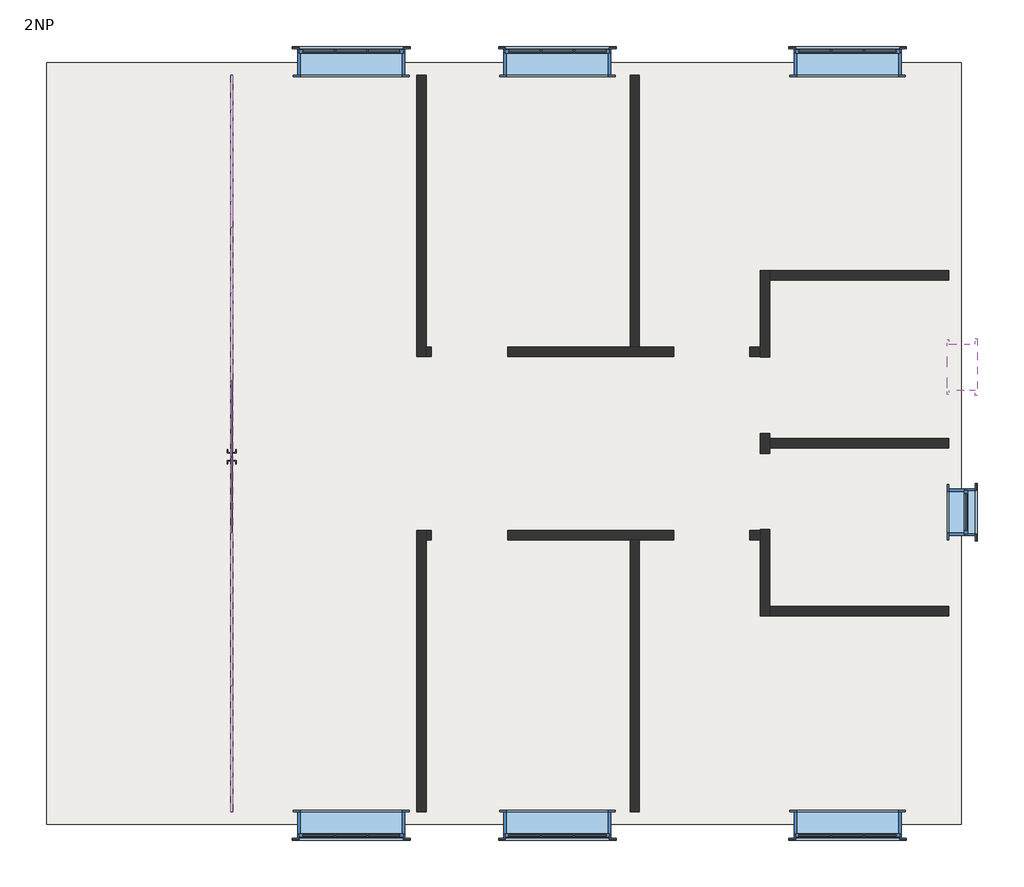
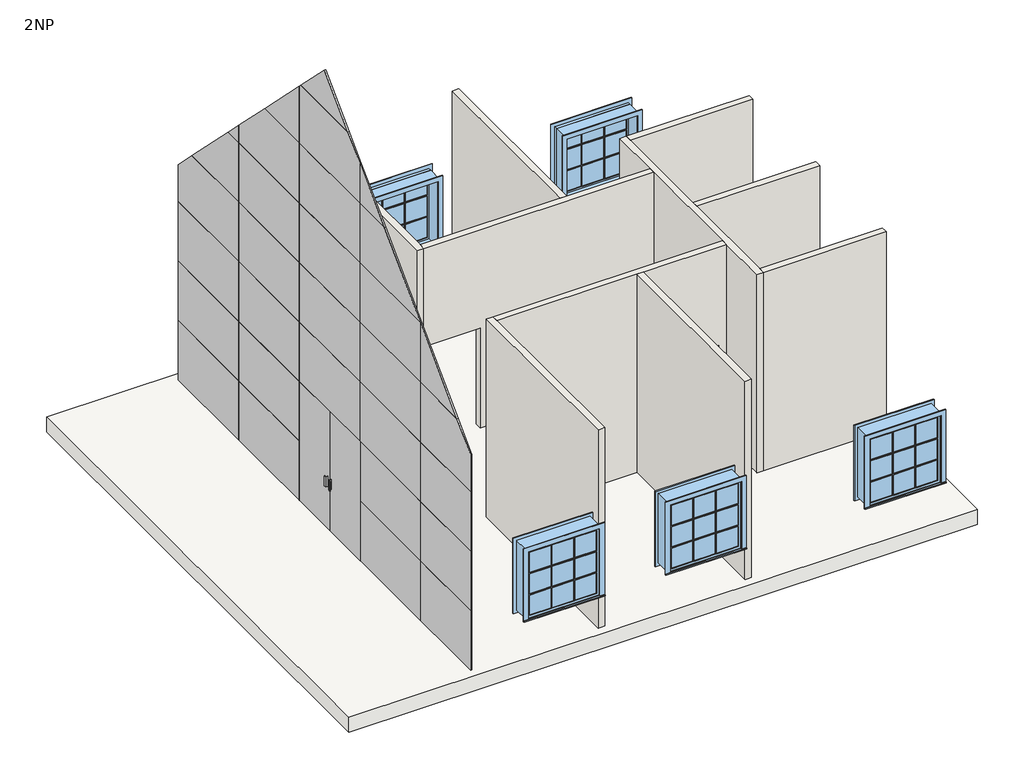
# One storey, incomplete: 32 plates, 10 walls, 8 windows, 1 slab.
"""IFC4 building model written with IfcOpenShell, lengths in millimetres."""

from ifc_helpers import new_model, si_unit, frame, origin, place, context, project, spatial, polyline, outline, extrude, faceted_brep, transform, mapped, element, save
from components import m_curtain_wall_dbl_glass_m_curtain_wall_dbl_glass_c5b9b46c, system_panel_glazed_d184565c, system_panel_glazed_a29ab13c, system_panel_glazed_1f2d8921, system_panel_glazed_cb63a45b, system_panel_glazed_0444e5be, system_panel_glazed_45b75be5, system_panel_glazed_26c7c5f0, system_panel_glazed_a9088b02, system_panel_glazed_44f6e10a, system_panel_glazed_ad263807, system_panel_glazed_3f13fcba, system_panel_glazed_54a3dccb, system_panel_glazed_ad8dc7ae, m_casement_3x3_with_trim_1100_x_1400_df31fcd5, m_casement_with_trim_0610_x_0610mm_632b6733

model = new_model("IFC4")

# Units and contexts
model_context = context("Model", 3, world=origin())
ifc_project = project(units=[si_unit("LENGTHUNIT", "METRE", prefix="MILLI")], contexts=[model_context])

# Site, building, storey
site = spatial("IfcSite", under=ifc_project)
building = spatial("IfcBuilding", under=site)
storey = spatial("IfcBuildingStorey", under=building, Name="2NP", Elevation=4000.0)

# Plates
placement = place(None, origin())
m_curtain_wall_dbl_glass_m_curtain_wall_dbl_glass_shape = m_curtain_wall_dbl_glass_m_curtain_wall_dbl_glass_c5b9b46c(model_context)
element("IfcPlate", 1, ObjectType="M_Curtain Wall Dbl Glass : M_Curtain Wall Dbl Glass", at=placement, inside=storey, context=model_context, shape_type="MappedRepresentation", body=[
    mapped(m_curtain_wall_dbl_glass_m_curtain_wall_dbl_glass_shape, transform((31926.5997597, 13660.2898989, 4000.0), x_axis=(0.0, -1.0, 0.0), y_axis=(1.0, 0.0, 0.0), z_axis=(0.0, 0.0, 1.0))),
])
system_panel_glazed_shape = system_panel_glazed_d184565c(model_context)
element("IfcPlate", 2, ObjectType="System Panel : Glazed", at=placement, inside=storey, context=model_context, shape_type="MappedRepresentation", body=[
    mapped(system_panel_glazed_shape, transform((31926.5997597, 17660.2898989, 4000.0), x_axis=(0.0, -1.0, 0.0), y_axis=(1.0, 0.0, 0.0), z_axis=(0.0, 0.0, 1.0))),
])
element("IfcPlate", 3, ObjectType="System Panel : Glazed", at=placement, inside=storey, context=model_context, shape_type="MappedRepresentation", body=[
    mapped(system_panel_glazed_shape, transform((31926.5997597, 15660.2898989, 4000.0), x_axis=(0.0, -1.0, 0.0), y_axis=(1.0, 0.0, 0.0), z_axis=(0.0, 0.0, 1.0))),
])
element("IfcPlate", 4, ObjectType="System Panel : Glazed", at=placement, inside=storey, context=model_context, shape_type="MappedRepresentation", body=[
    mapped(system_panel_glazed_shape, transform((31926.5997597, 11660.2898989, 4000.0), x_axis=(0.0, -1.0, 0.0), y_axis=(1.0, 0.0, 0.0), z_axis=(0.0, 0.0, 1.0))),
])
element("IfcPlate", 5, ObjectType="System Panel : Glazed", at=placement, inside=storey, context=model_context, shape_type="MappedRepresentation", body=[
    mapped(system_panel_glazed_shape, transform((31926.5997597, 17660.2898989, 5200.0), x_axis=(0.0, -1.0, 0.0), y_axis=(1.0, 0.0, 0.0), z_axis=(0.0, 0.0, 1.0))),
])
element("IfcPlate", 6, ObjectType="System Panel : Glazed", at=placement, inside=storey, context=model_context, shape_type="MappedRepresentation", body=[
    mapped(system_panel_glazed_shape, transform((31926.5997597, 15660.2898989, 5200.0), x_axis=(0.0, -1.0, 0.0), y_axis=(1.0, 0.0, 0.0), z_axis=(0.0, 0.0, 1.0))),
])
element("IfcPlate", 7, ObjectType="System Panel : Glazed", at=placement, inside=storey, context=model_context, shape_type="MappedRepresentation", body=[
    mapped(system_panel_glazed_shape, transform((31926.5997597, 11660.2898989, 5200.0), x_axis=(0.0, -1.0, 0.0), y_axis=(1.0, 0.0, 0.0), z_axis=(0.0, 0.0, 1.0))),
])
element("IfcPlate", 8, ObjectType="System Panel : Glazed", at=placement, inside=storey, context=model_context, shape_type="MappedRepresentation", body=[
    mapped(system_panel_glazed_shape, transform((31926.5997597, 17660.2898989, 6400.0), x_axis=(0.0, -1.0, 0.0), y_axis=(1.0, 0.0, 0.0), z_axis=(0.0, 0.0, 1.0))),
])
element("IfcPlate", 9, ObjectType="System Panel : Glazed", at=placement, inside=storey, context=model_context, shape_type="MappedRepresentation", body=[
    mapped(system_panel_glazed_shape, transform((31926.5997597, 15660.2898989, 6400.0), x_axis=(0.0, -1.0, 0.0), y_axis=(1.0, 0.0, 0.0), z_axis=(0.0, 0.0, 1.0))),
])
element("IfcPlate", 10, ObjectType="System Panel : Glazed", at=placement, inside=storey, context=model_context, shape_type="MappedRepresentation", body=[
    mapped(system_panel_glazed_shape, transform((31926.5997597, 13660.2898989, 6400.0), x_axis=(0.0, -1.0, 0.0), y_axis=(1.0, 0.0, 0.0), z_axis=(0.0, 0.0, 1.0))),
])
element("IfcPlate", 11, ObjectType="System Panel : Glazed", at=placement, inside=storey, context=model_context, shape_type="MappedRepresentation", body=[
    mapped(system_panel_glazed_shape, transform((31926.5997597, 11660.2898989, 6400.0), x_axis=(0.0, -1.0, 0.0), y_axis=(1.0, 0.0, 0.0), z_axis=(0.0, 0.0, 1.0))),
])
element("IfcPlate", 12, ObjectType="System Panel : Glazed", at=placement, inside=storey, context=model_context, shape_type="MappedRepresentation", body=[
    mapped(system_panel_glazed_shape, transform((31926.5997597, 15660.2898989, 7600.0), x_axis=(0.0, -1.0, 0.0), y_axis=(1.0, 0.0, 0.0), z_axis=(0.0, 0.0, 1.0))),
])
element("IfcPlate", 13, ObjectType="System Panel : Glazed", at=placement, inside=storey, context=model_context, shape_type="MappedRepresentation", body=[
    mapped(system_panel_glazed_shape, transform((31926.5997597, 13660.2898989, 7600.0), x_axis=(0.0, -1.0, 0.0), y_axis=(1.0, 0.0, 0.0), z_axis=(0.0, 0.0, 1.0))),
])
element("IfcPlate", 14, ObjectType="System Panel : Glazed", at=placement, inside=storey, context=model_context, shape_type="MappedRepresentation", body=[
    mapped(system_panel_glazed_shape, transform((31926.5997597, 11660.2898989, 7600.0), x_axis=(0.0, -1.0, 0.0), y_axis=(1.0, 0.0, 0.0), z_axis=(0.0, 0.0, 1.0))),
])
element("IfcPlate", 15, ObjectType="System Panel : Glazed", at=placement, inside=storey, context=model_context, shape_type="MappedRepresentation", body=[
    mapped(system_panel_glazed_shape, transform((31926.5997597, 15660.2898989, 8800.0), x_axis=(0.0, -1.0, 0.0), y_axis=(1.0, 0.0, 0.0), z_axis=(0.0, 0.0, 1.0))),
])
element("IfcPlate", 16, ObjectType="System Panel : Glazed", at=placement, inside=storey, context=model_context, shape_type="MappedRepresentation", body=[
    mapped(system_panel_glazed_shape, transform((31926.5997597, 13660.2898989, 8800.0), x_axis=(0.0, -1.0, 0.0), y_axis=(1.0, 0.0, 0.0), z_axis=(0.0, 0.0, 1.0))),
])
element("IfcPlate", 17, ObjectType="System Panel : Glazed", at=placement, inside=storey, context=model_context, shape_type="MappedRepresentation", body=[
    mapped(system_panel_glazed_shape, transform((31926.5997597, 11660.2898989, 8800.0), x_axis=(0.0, -1.0, 0.0), y_axis=(1.0, 0.0, 0.0), z_axis=(0.0, 0.0, 1.0))),
])
element("IfcPlate", 18, ObjectType="System Panel : Glazed", at=placement, inside=storey, context=model_context, shape_type="MappedRepresentation", body=[
    mapped(system_panel_glazed_shape, transform((31926.5997597, 13660.2898989, 10000.0), x_axis=(0.0, -1.0, 0.0), y_axis=(1.0, 0.0, 0.0), z_axis=(0.0, 0.0, 1.0))),
])
system_panel_glazed_2_shape = system_panel_glazed_a29ab13c(model_context)
element("IfcPlate", 19, ObjectType="System Panel : Glazed", at=placement, inside=storey, context=model_context, shape_type="MappedRepresentation", body=[
    mapped(system_panel_glazed_2_shape, transform((31926.5997597, 9835.2898989, 4000.0), x_axis=(0.0, -1.0, 0.0), y_axis=(1.0, 0.0, 0.0), z_axis=(0.0, 0.0, 1.0))),
])
element("IfcPlate", 20, ObjectType="System Panel : Glazed", at=placement, inside=storey, context=model_context, shape_type="MappedRepresentation", body=[
    mapped(system_panel_glazed_2_shape, transform((31926.5997597, 9835.2898989, 5200.0), x_axis=(0.0, -1.0, 0.0), y_axis=(1.0, 0.0, 0.0), z_axis=(0.0, 0.0, 1.0))),
])
element("IfcPlate", 21, ObjectType="System Panel : Glazed", at=placement, inside=storey, context=model_context, shape_type="MappedRepresentation", body=[
    mapped(system_panel_glazed_2_shape, transform((31926.5997597, 9835.2898989, 6400.0), x_axis=(0.0, -1.0, 0.0), y_axis=(1.0, 0.0, 0.0), z_axis=(0.0, 0.0, 1.0))),
])
system_panel_glazed_3_shape = system_panel_glazed_1f2d8921(model_context)
element("IfcPlate", 22, ObjectType="System Panel : Glazed", at=placement, inside=storey, context=model_context, shape_type="MappedRepresentation", body=[
    mapped(system_panel_glazed_3_shape, transform((31926.5997597, 17660.2898989, 7600.0), x_axis=(0.0, -1.0, 0.0), y_axis=(1.0, 0.0, 0.0), z_axis=(0.0, 0.0, 1.0))),
])
system_panel_glazed_4_shape = system_panel_glazed_cb63a45b(model_context)
element("IfcPlate", 23, ObjectType="System Panel : Glazed", at=placement, inside=storey, context=model_context, shape_type="MappedRepresentation", body=[
    mapped(system_panel_glazed_4_shape, transform((31926.5997597, 9835.2898989, 7600.0), x_axis=(0.0, -1.0, 0.0), y_axis=(1.0, 0.0, 0.0), z_axis=(0.0, 0.0, 1.0))),
])
system_panel_glazed_5_shape = system_panel_glazed_0444e5be(model_context)
element("IfcPlate", 24, ObjectType="System Panel : Glazed", at=placement, inside=storey, context=model_context, shape_type="MappedRepresentation", body=[
    mapped(system_panel_glazed_5_shape, transform((31926.5997597, 10060.2898989, 8800.0), x_axis=(0.0, -1.0, 0.0), y_axis=(1.0, 0.0, 0.0), z_axis=(0.0, 0.0, 1.0))),
])
system_panel_glazed_6_shape = system_panel_glazed_45b75be5(model_context)
element("IfcPlate", 25, ObjectType="System Panel : Glazed", at=placement, inside=storey, context=model_context, shape_type="MappedRepresentation", body=[
    mapped(system_panel_glazed_6_shape, transform((31926.5997597, 17435.2898989, 8800.0), x_axis=(0.0, -1.0, 0.0), y_axis=(1.0, 0.0, 0.0), z_axis=(0.0, 0.0, 1.0))),
])
system_panel_glazed_7_shape = system_panel_glazed_26c7c5f0(model_context)
element("IfcPlate", 26, ObjectType="System Panel : Glazed", at=placement, inside=storey, context=model_context, shape_type="MappedRepresentation", body=[
    mapped(system_panel_glazed_7_shape, transform((31926.5997597, 16835.2898989, 10000.0), x_axis=(0.0, -1.0, 0.0), y_axis=(1.0, 0.0, 0.0), z_axis=(0.0, 0.0, 1.0))),
])
system_panel_glazed_8_shape = system_panel_glazed_a9088b02(model_context)
element("IfcPlate", 27, ObjectType="System Panel : Glazed", at=placement, inside=storey, context=model_context, shape_type="MappedRepresentation", body=[
    mapped(system_panel_glazed_8_shape, transform((31926.5997597, 15660.2898989, 10000.0), x_axis=(0.0, -1.0, 0.0), y_axis=(1.0, 0.0, 0.0), z_axis=(0.0, 0.0, 1.0))),
])
system_panel_glazed_9_shape = system_panel_glazed_44f6e10a(model_context)
element("IfcPlate", 28, ObjectType="System Panel : Glazed", at=placement, inside=storey, context=model_context, shape_type="MappedRepresentation", body=[
    mapped(system_panel_glazed_9_shape, transform((31926.5997597, 11660.2898989, 10000.0), x_axis=(0.0, -1.0, 0.0), y_axis=(1.0, 0.0, 0.0), z_axis=(0.0, 0.0, 1.0))),
])
system_panel_glazed_10_shape = system_panel_glazed_ad263807(model_context)
element("IfcPlate", 29, ObjectType="System Panel : Glazed", at=placement, inside=storey, context=model_context, shape_type="MappedRepresentation", body=[
    mapped(system_panel_glazed_10_shape, transform((31926.5997597, 15235.2898989, 11200.0), x_axis=(0.0, -1.0, 0.0), y_axis=(1.0, 0.0, 0.0), z_axis=(0.0, 0.0, 1.0))),
])
system_panel_glazed_11_shape = system_panel_glazed_3f13fcba(model_context)
element("IfcPlate", 30, ObjectType="System Panel : Glazed", at=placement, inside=storey, context=model_context, shape_type="MappedRepresentation", body=[
    mapped(system_panel_glazed_11_shape, transform((31926.5997597, 13660.2898989, 11200.0), x_axis=(0.0, -1.0, 0.0), y_axis=(1.0, 0.0, 0.0), z_axis=(0.0, 0.0, 1.0))),
])
system_panel_glazed_12_shape = system_panel_glazed_54a3dccb(model_context)
element("IfcPlate", 31, ObjectType="System Panel : Glazed", at=placement, inside=storey, context=model_context, shape_type="MappedRepresentation", body=[
    mapped(system_panel_glazed_12_shape, transform((31926.5997597, 12260.2898989, 11200.0), x_axis=(0.0, -1.0, 0.0), y_axis=(1.0, 0.0, 0.0), z_axis=(0.0, 0.0, 1.0))),
])
system_panel_glazed_13_shape = system_panel_glazed_ad8dc7ae(model_context)
element("IfcPlate", 32, ObjectType="System Panel : Glazed", at=placement, inside=storey, context=model_context, shape_type="MappedRepresentation", body=[
    mapped(system_panel_glazed_13_shape, transform((31926.5997597, 13835.2898989, 12400.0), x_axis=(0.0, -1.0, 0.0), y_axis=(1.0, 0.0, 0.0), z_axis=(0.0, 0.0, 1.0))),
])

# Slab
element("IfcSlab", 33, ObjectType="Generic 300mm", at=placement, inside=storey, context=model_context, shape_type="SweptSolid", body=[
    extrude(outline(polyline([(29461.5997597, 18825.2898989), (41441.5997597, 18825.2898989), (41441.5997597, 8845.2898989), (29461.5997597, 8845.2898989), (29461.5997597, 18825.2898989)])), frame((0.0, 0.0, 3700.0), z_axis=(0.0, 0.0, 1.0), x_axis=(1.0, 0.0, 0.0)), (0.0, 0.0, 1.0), 300.0),
])

# Walls
element("IfcWall", 34, ObjectType="Interior - Blockwork 100", at=placement, inside=storey, context=model_context, shape_type="Brep", body=[
    faceted_brep([(34431.355701, 9010.2898989, 4000.0), (34431.355701, 12573.2898989, 4000.0), (34431.355701, 12697.2898989, 4000.0), (34431.355701, 12697.2898989, 8000.0), (34431.355701, 12573.2898989, 8000.0), (34431.355701, 9010.2898989, 8000.0), (34307.355701, 9010.2898989, 4000.0), (34307.355701, 9010.2898989, 8000.0), (34307.355701, 12697.2898989, 8000.0), (34307.355701, 12697.2898989, 4000.0)], [[[0, 1, 2, 3, 4, 5]], [[6, 7, 8, 9]], [[2, 1, 0, 6, 9]], [[5, 4, 3, 8, 7]], [[0, 5, 7, 6]], [[3, 2, 9, 8]]]),
])
element("IfcWall", 35, ObjectType="Interior - Blockwork 100", at=placement, inside=storey, context=model_context, shape_type="Brep", body=[
    faceted_brep([(35501.355701, 14973.2898989, 6020.0), (35501.355701, 14973.2898989, 4000.0), (37673.0559814, 14973.2898989, 4000.0), (37673.0559814, 14973.2898989, 6020.0), (38673.0559814, 14973.2898989, 6020.0), (38673.0559814, 14973.2898989, 4000.0), (38811.0559814, 14973.2898989, 4000.0), (38811.0559814, 14973.2898989, 8000.0), (34431.355701, 14973.2898989, 8000.0), (34431.355701, 14973.2898989, 4000.0), (34501.355701, 14973.2898989, 4000.0), (34501.355701, 14973.2898989, 6020.0), (37673.0559814, 15097.2898989, 4000.0), (37226.5997597, 15097.2898989, 4000.0), (37102.5997597, 15097.2898989, 4000.0), (35501.355701, 15097.2898989, 4000.0), (35501.355701, 15097.2898989, 6020.0), (34501.355701, 15097.2898989, 6020.0), (34501.355701, 15097.2898989, 4000.0), (34431.355701, 15097.2898989, 4000.0), (34431.355701, 15097.2898989, 8000.0), (37102.5997597, 15097.2898989, 8000.0), (37226.5997597, 15097.2898989, 8000.0), (38811.0559814, 15097.2898989, 8000.0), (38811.0559814, 15097.2898989, 4000.0), (38673.0559814, 15097.2898989, 4000.0), (38673.0559814, 15097.2898989, 6020.0), (37673.0559814, 15097.2898989, 6020.0)], [[[0, 1, 2, 3, 4, 5, 6, 7, 8, 9, 10, 11]], [[12, 13, 14, 15, 16, 17, 18, 19, 20, 21, 22, 23, 24, 25, 26, 27]], [[2, 1, 15, 14, 13, 12]], [[24, 6, 5, 25]], [[10, 9, 19, 18]], [[8, 7, 23, 22, 21, 20]], [[9, 8, 20, 19]], [[7, 6, 24, 23]], [[27, 3, 2, 12]], [[3, 27, 26, 4]], [[4, 26, 25, 5]], [[16, 15, 1, 0]], [[17, 16, 0, 11]], [[18, 17, 11, 10]]]),
])
element("IfcWall", 36, ObjectType="Interior - Blockwork 100", at=placement, inside=storey, context=model_context, shape_type="Brep", body=[
    faceted_brep([(35501.355701, 12573.2898989, 6020.0), (35501.355701, 12573.2898989, 4000.0), (37102.5997597, 12573.2898989, 4000.0), (37226.5997597, 12573.2898989, 4000.0), (37673.0559814, 12573.2898989, 4000.0), (37673.0559814, 12573.2898989, 6020.0), (38673.0559814, 12573.2898989, 6020.0), (38673.0559814, 12573.2898989, 4000.0), (38811.0559814, 12573.2898989, 4000.0), (38811.0559814, 12573.2898989, 8000.0), (37226.5997597, 12573.2898989, 8000.0), (37102.5997597, 12573.2898989, 8000.0), (34431.355701, 12573.2898989, 8000.0), (34431.355701, 12573.2898989, 4000.0), (34501.355701, 12573.2898989, 4000.0), (34501.355701, 12573.2898989, 6020.0), (37673.0559814, 12697.2898989, 4000.0), (35501.355701, 12697.2898989, 4000.0), (35501.355701, 12697.2898989, 6020.0), (34501.355701, 12697.2898989, 6020.0), (34501.355701, 12697.2898989, 4000.0), (34431.355701, 12697.2898989, 4000.0), (34431.355701, 12697.2898989, 8000.0), (38811.0559814, 12697.2898989, 8000.0), (38811.0559814, 12697.2898989, 4000.0), (38673.0559814, 12697.2898989, 4000.0), (38673.0559814, 12697.2898989, 6020.0), (37673.0559814, 12697.2898989, 6020.0)], [[[0, 1, 2, 3, 4, 5, 6, 7, 8, 9, 10, 11, 12, 13, 14, 15]], [[16, 17, 18, 19, 20, 21, 22, 23, 24, 25, 26, 27]], [[4, 3, 2, 1, 17, 16]], [[24, 8, 7, 25]], [[14, 13, 21, 20]], [[12, 11, 10, 9, 23, 22]], [[13, 12, 22, 21]], [[9, 8, 24, 23]], [[27, 5, 4, 16]], [[5, 27, 26, 6]], [[6, 26, 25, 7]], [[18, 17, 1, 0]], [[19, 18, 0, 15]], [[20, 19, 15, 14]]]),
])
element("IfcWall", 37, ObjectType="Interior - Blockwork 100", at=placement, inside=storey, context=model_context, shape_type="Brep", body=[
    faceted_brep([(38811.0559814, 12705.2898989, 6020.0), (38811.0559814, 12705.2898989, 4000.0), (38811.0559814, 12697.2898989, 4000.0), (38811.0559814, 12573.2898989, 4000.0), (38811.0559814, 11573.2898989, 4000.0), (38811.0559814, 11573.2898989, 8000.0), (38811.0559814, 12573.2898989, 8000.0), (38811.0559814, 12697.2898989, 8000.0), (38811.0559814, 14973.2898989, 8000.0), (38811.0559814, 15097.2898989, 8000.0), (38811.0559814, 16097.2898989, 8000.0), (38811.0559814, 16097.2898989, 4000.0), (38811.0559814, 15097.2898989, 4000.0), (38811.0559814, 14973.2898989, 4000.0), (38811.0559814, 14965.2898989, 4000.0), (38811.0559814, 14965.2898989, 6020.0), (38811.0559814, 13965.2898989, 6020.0), (38811.0559814, 13965.2898989, 4000.0), (38811.0559814, 13705.2898989, 4000.0), (38811.0559814, 13705.2898989, 6020.0), (38935.0559814, 11573.2898989, 4000.0), (38935.0559814, 11697.2898989, 4000.0), (38935.0559814, 12705.2898989, 4000.0), (38935.0559814, 12705.2898989, 6020.0), (38935.0559814, 13705.2898989, 6020.0), (38935.0559814, 13705.2898989, 4000.0), (38935.0559814, 13773.2898989, 4000.0), (38935.0559814, 13897.2898989, 4000.0), (38935.0559814, 13965.2898989, 4000.0), (38935.0559814, 13965.2898989, 6020.0), (38935.0559814, 14965.2898989, 6020.0), (38935.0559814, 14965.2898989, 4000.0), (38935.0559814, 15973.2898989, 4000.0), (38935.0559814, 16097.2898989, 4000.0), (38935.0559814, 16097.2898989, 8000.0), (38935.0559814, 15973.2898989, 8000.0), (38935.0559814, 13897.2898989, 8000.0), (38935.0559814, 13773.2898989, 8000.0), (38935.0559814, 11697.2898989, 8000.0), (38935.0559814, 11573.2898989, 8000.0)], [[[0, 1, 2, 3, 4, 5, 6, 7, 8, 9, 10, 11, 12, 13, 14, 15, 16, 17, 18, 19]], [[20, 21, 22, 23, 24, 25, 26, 27, 28, 29, 30, 31, 32, 33, 34, 35, 36, 37, 38, 39]], [[33, 32, 31, 14, 13, 12, 11]], [[4, 3, 2, 1, 22, 21, 20]], [[18, 17, 28, 27, 26, 25]], [[10, 9, 8, 7, 6, 5, 39, 38, 37, 36, 35, 34]], [[5, 4, 20, 39]], [[11, 10, 34, 33]], [[15, 14, 31, 30]], [[16, 15, 30, 29]], [[17, 16, 29, 28]], [[23, 22, 1, 0]], [[24, 23, 0, 19]], [[25, 24, 19, 18]]]),
])
element("IfcWall", 38, ObjectType="Interior - Blockwork 100", at=placement, inside=storey, context=model_context, shape_type="SweptSolid", body=[
    extrude(outline(polyline([(41276.5997597, 11573.2898989), (38935.0559814, 11573.2898989), (38935.0559814, 11697.2898989), (41276.5997597, 11697.2898989), (41276.5997597, 11573.2898989)])), frame((0.0, 0.0, 4000.0), z_axis=(0.0, 0.0, 1.0), x_axis=(1.0, 0.0, 0.0)), (0.0, 0.0, 1.0), 4000.0),
])
element("IfcWall", 39, ObjectType="Interior - Blockwork 100", at=placement, inside=storey, context=model_context, shape_type="SweptSolid", body=[
    extrude(outline(polyline([(41276.5997597, 15973.2898989), (38935.0559814, 15973.2898989), (38935.0559814, 16097.2898989), (41276.5997597, 16097.2898989), (41276.5997597, 15973.2898989)])), frame((0.0, 0.0, 4000.0), z_axis=(0.0, 0.0, 1.0), x_axis=(1.0, 0.0, 0.0)), (0.0, 0.0, 1.0), 4000.0),
])
element("IfcWall", 40, ObjectType="Interior - Blockwork 100", at=placement, inside=storey, context=model_context, shape_type="SweptSolid", body=[
    extrude(outline(polyline([(37102.5997597, 15097.2898989), (37102.5997597, 18660.2898989), (37226.5997597, 18660.2898989), (37226.5997597, 15097.2898989), (37102.5997597, 15097.2898989)])), frame((0.0, 0.0, 4000.0), z_axis=(0.0, 0.0, 1.0), x_axis=(1.0, 0.0, 0.0)), (0.0, 0.0, 1.0), 4000.0),
])
element("IfcWall", 41, ObjectType="Interior - Blockwork 100", at=placement, inside=storey, context=model_context, shape_type="SweptSolid", body=[
    extrude(outline(polyline([(37102.5997597, 9010.2898989), (37102.5997597, 12573.2898989), (37226.5997597, 12573.2898989), (37226.5997597, 9010.2898989), (37102.5997597, 9010.2898989)])), frame((0.0, 0.0, 4000.0), z_axis=(0.0, 0.0, 1.0), x_axis=(1.0, 0.0, 0.0)), (0.0, 0.0, 1.0), 4000.0),
])
element("IfcWall", 42, ObjectType="Interior - Blockwork 100", at=placement, inside=storey, context=model_context, shape_type="Brep", body=[
    faceted_brep([(34431.355701, 14973.2898989, 4000.0), (34431.355701, 15097.2898989, 4000.0), (34431.355701, 18660.2898989, 4000.0), (34431.355701, 18660.2898989, 8000.0), (34431.355701, 15097.2898989, 8000.0), (34431.355701, 14973.2898989, 8000.0), (34307.355701, 14973.2898989, 4000.0), (34307.355701, 14973.2898989, 8000.0), (34307.355701, 18660.2898989, 8000.0), (34307.355701, 18660.2898989, 4000.0)], [[[0, 1, 2, 3, 4, 5]], [[6, 7, 8, 9]], [[2, 1, 0, 6, 9]], [[5, 4, 3, 8, 7]], [[0, 5, 7, 6]], [[3, 2, 9, 8]]]),
])
element("IfcWall", 43, ObjectType="Interior - Blockwork 100", at=placement, inside=storey, context=model_context, shape_type="SweptSolid", body=[
    extrude(outline(polyline([(41276.5997597, 13773.2898989), (38935.0559814, 13773.2898989), (38935.0559814, 13897.2898989), (41276.5997597, 13897.2898989), (41276.5997597, 13773.2898989)])), frame((0.0, 0.0, 4000.0), z_axis=(0.0, 0.0, 1.0), x_axis=(1.0, 0.0, 0.0)), (0.0, 0.0, 1.0), 4000.0),
])

# Windows
m_casement_3x3_with_trim_1100_x_1400_shape = m_casement_3x3_with_trim_1100_x_1400_df31fcd5(model_context)
element("IfcWindow", 44, ObjectType="M_Casement 3x3 with Trim : 1100 x 1400", at=placement, inside=storey, context=model_context, shape_type="MappedRepresentation", body=[
    mapped(m_casement_3x3_with_trim_1100_x_1400_shape, transform((33451.5997597, 18835.2898989, 4000.0), x_axis=(1.0, 0.0, 0.0), y_axis=(0.0, 1.0, 0.0), z_axis=(0.0, 0.0, 1.0))),
])
element("IfcWindow", 45, ObjectType="M_Casement 3x3 with Trim : 1100 x 1400", at=placement, inside=storey, context=model_context, shape_type="MappedRepresentation", body=[
    mapped(m_casement_3x3_with_trim_1100_x_1400_shape, transform((36151.5997597, 18835.2898989, 4000.0), x_axis=(1.0, 0.0, 0.0), y_axis=(0.0, 1.0, 0.0), z_axis=(0.0, 0.0, 1.0))),
])
element("IfcWindow", 46, ObjectType="M_Casement 3x3 with Trim : 1100 x 1400", at=placement, inside=storey, context=model_context, shape_type="MappedRepresentation", body=[
    mapped(m_casement_3x3_with_trim_1100_x_1400_shape, transform((39951.5997597, 18835.2898989, 4000.0), x_axis=(1.0, 0.0, 0.0), y_axis=(0.0, 1.0, 0.0), z_axis=(0.0, 0.0, 1.0))),
])
element("IfcWindow", 47, ObjectType="M_Casement 3x3 with Trim : 1100 x 1400", at=placement, inside=storey, context=model_context, shape_type="MappedRepresentation", body=[
    mapped(m_casement_3x3_with_trim_1100_x_1400_shape, transform((39951.5997597, 8835.2898989, 4000.0), x_axis=(-1.0, 0.0, 0.0), y_axis=(0.0, -1.0, 0.0), z_axis=(0.0, 0.0, 1.0))),
])
element("IfcWindow", 48, ObjectType="M_Casement 3x3 with Trim : 1100 x 1400", at=placement, inside=storey, context=model_context, shape_type="MappedRepresentation", body=[
    mapped(m_casement_3x3_with_trim_1100_x_1400_shape, transform((36151.5997597, 8835.2898989, 4000.0), x_axis=(-1.0, 0.0, 0.0), y_axis=(0.0, -1.0, 0.0), z_axis=(0.0, 0.0, 1.0))),
])
element("IfcWindow", 49, ObjectType="M_Casement 3x3 with Trim : 1100 x 1400", at=placement, inside=storey, context=model_context, shape_type="MappedRepresentation", body=[
    mapped(m_casement_3x3_with_trim_1100_x_1400_shape, transform((33451.5997597, 8835.2898989, 4000.0), x_axis=(-1.0, 0.0, 0.0), y_axis=(0.0, -1.0, 0.0), z_axis=(0.0, 0.0, 1.0))),
])
m_casement_with_trim_0610_x_0610mm_shape = m_casement_with_trim_0610_x_0610mm_632b6733(model_context)
element("IfcWindow", 50, ObjectType="M_Casement with Trim : 0610 x 0610mm", at=placement, inside=storey, context=model_context, shape_type="MappedRepresentation", body=[
    mapped(m_casement_with_trim_0610_x_0610mm_shape, transform((41451.5997597, 14835.2898989, 4790.0), x_axis=(0.0, -1.0, 0.0), y_axis=(1.0, 0.0, 0.0), z_axis=(0.0, 0.0, 1.0))),
])
element("IfcWindow", 51, ObjectType="M_Casement with Trim : 0610 x 0610mm", at=placement, inside=storey, context=model_context, shape_type="MappedRepresentation", body=[
    mapped(m_casement_with_trim_0610_x_0610mm_shape, transform((41451.5997597, 12935.2898989, 4000.0), x_axis=(0.0, -1.0, 0.0), y_axis=(1.0, 0.0, 0.0), z_axis=(0.0, 0.0, 1.0))),
])

save(model, "model.ifc")
